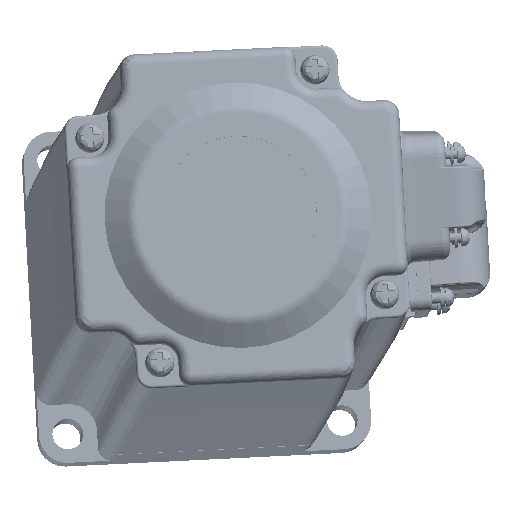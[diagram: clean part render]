
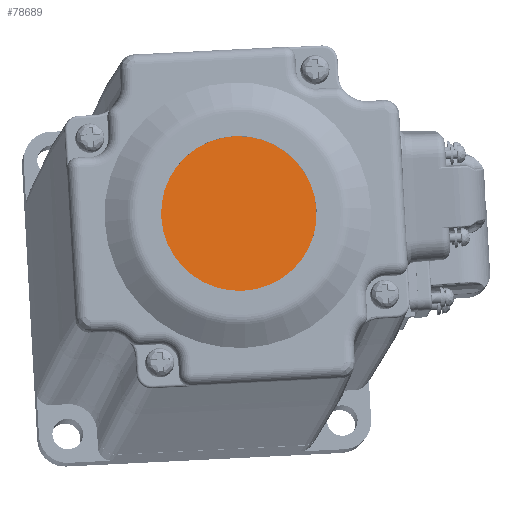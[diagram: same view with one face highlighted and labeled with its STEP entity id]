
A CAD part, top view. The second image highlights one B-rep face of the part: STEP entity #78689.
In plain terms, the highlighted planar face has unit normal (0.057, 0.103, 0.993).
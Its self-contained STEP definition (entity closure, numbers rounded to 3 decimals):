
#22547=CARTESIAN_POINT('',(31.128,36.283,110.331));
#22548=DIRECTION('',(-0.057,-0.103,-0.993));
#22549=DIRECTION('',(0.997,0.05,-0.062));
#22550=AXIS2_PLACEMENT_3D('',#22547,#22548,#22549);
#22552=CARTESIAN_POINT('',(31.128,36.283,110.331));
#22553=DIRECTION('',(-0.057,-0.103,-0.993));
#22554=DIRECTION('',(-0.997,-0.05,0.062));
#22555=AXIS2_PLACEMENT_3D('',#22552,#22553,#22554);
#39379=CARTESIAN_POINT('',(17.173,35.582,111.2));
#39380=VERTEX_POINT('',#39379);
#39381=CARTESIAN_POINT('',(45.084,36.984,109.462));
#39382=VERTEX_POINT('',#39381);
#78680=CARTESIAN_POINT('',(31.128,36.283,110.331));
#78681=DIRECTION('',(0.057,0.103,0.993));
#78682=DIRECTION('',(-0.997,-0.05,0.062));
#78683=AXIS2_PLACEMENT_3D('',#78680,#78681,#78682);
#78684=PLANE('',#78683);
#78685=ORIENTED_EDGE('',*,*,#78660,.T.);
#78686=ORIENTED_EDGE('',*,*,#78674,.T.);
#78687=EDGE_LOOP('',(#78685,#78686));
#78688=FACE_OUTER_BOUND('',#78687,.F.);
#22551=CIRCLE('',#22550,14.);
#22556=CIRCLE('',#22555,14.);
#78660=EDGE_CURVE('',#39382,#39380,#22551,.T.);
#78674=EDGE_CURVE('',#39380,#39382,#22556,.T.);
#78689=ADVANCED_FACE('',(#78688),#78684,.T.);
